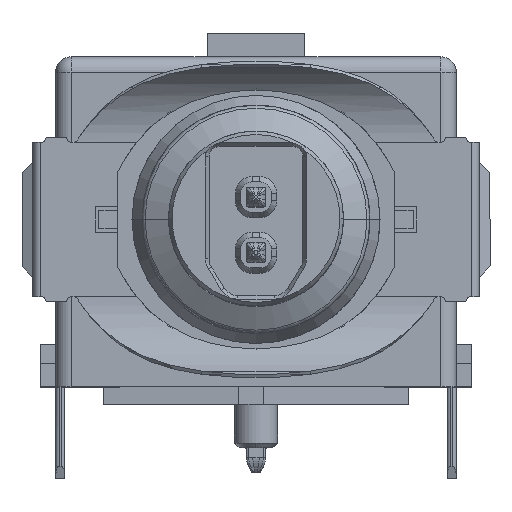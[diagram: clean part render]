
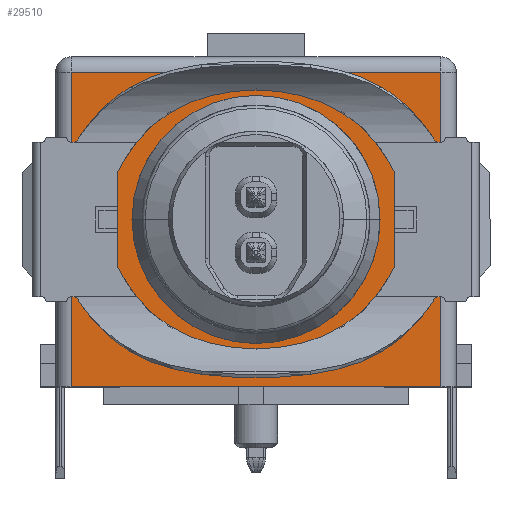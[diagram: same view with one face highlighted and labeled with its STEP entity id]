
A CAD part, top view. The second image highlights one B-rep face of the part: STEP entity #29510.
In plain terms, the highlighted planar face has unit normal (0, 0, 1) as drawn and (0, 0, -1) by its records, which use the part's own axes.
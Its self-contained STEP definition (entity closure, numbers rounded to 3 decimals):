
#1590=CARTESIAN_POINT('',(-5.675,-51.718,8.665));
#1600=VERTEX_POINT('',#1590);
#2110=CARTESIAN_POINT('',(0.325,-51.718,8.665));
#2120=DIRECTION('',(-1.,0.,0.));
#2130=VECTOR('',#2120,1.);
#2140=LINE('',#2110,#2130);
#2150=CARTESIAN_POINT('',(6.325,-51.718,8.665));
#2160=VERTEX_POINT('',#2150);
#2170=EDGE_CURVE('',#2160,#1600,#2140,.T.);
#25010=CARTESIAN_POINT('',(6.325,-61.928,8.665));
#25020=VERTEX_POINT('',#25010);
#25050=CARTESIAN_POINT('',(0.,-61.928,8.665));
#25060=DIRECTION('',(-1.,0.,0.));
#25070=VECTOR('',#25060,1.);
#25080=LINE('',#25050,#25070);
#25090=CARTESIAN_POINT('',(-5.675,-61.928,8.665));
#25100=VERTEX_POINT('',#25090);
#25110=EDGE_CURVE('',#25020,#25100,#25080,.T.);
#29070=CARTESIAN_POINT('',(17.698,-51.404,
8.665));
#29080=DIRECTION('',(0.,0.,-1.));
#29090=DIRECTION('',(0.,-1.,0.));
#29100=AXIS2_PLACEMENT_3D('',#29070,#29080,#29090);
#29110=PLANE('',#29100);
#29120=ORIENTED_EDGE('',*,*,#2170,.F.);
#29130=CARTESIAN_POINT('',(-5.675,-53.883,8.665));
#29140=DIRECTION('',(0.,1.,0.));
#29150=VECTOR('',#29140,1.);
#29160=LINE('',#29130,#29150);
#29170=EDGE_CURVE('',#25100,#1600,#29160,.T.);
#29180=ORIENTED_EDGE('',*,*,#29170,.T.);
#29190=ORIENTED_EDGE('',*,*,#25110,.T.);
#29200=CARTESIAN_POINT('',(6.325,-53.883,8.665));
#29210=DIRECTION('',(0.,1.,0.));
#29220=VECTOR('',#29210,1.);
#29230=LINE('',#29200,#29220);
#29240=EDGE_CURVE('',#25020,#2160,#29230,.T.);
#29250=ORIENTED_EDGE('',*,*,#29240,.F.);
#29260=EDGE_LOOP('',(#29250,#29190,#29180,#29120));
#29270=FACE_OUTER_BOUND('',#29260,.T.);
#29280=CARTESIAN_POINT('',(0.325,-56.498,8.665));
#29290=DIRECTION('',(0.,0.,1.));
#29300=DIRECTION('',(1.,0.,0.));
#29310=AXIS2_PLACEMENT_3D('',#29280,#29290,#29300);
#29320=CIRCLE('',#29310,4.025);
#29330=CARTESIAN_POINT('',(4.35,-56.498,8.665));
#29340=VERTEX_POINT('',#29330);
#29350=CARTESIAN_POINT('',(-2.211,-53.373,
8.665));
#29360=VERTEX_POINT('',#29350);
#29370=EDGE_CURVE('',#29340,#29360,#29320,.T.);
#29380=ORIENTED_EDGE('',*,*,#29370,.T.);
#29390=CARTESIAN_POINT('',(-2.211,-59.623,
8.665));
#29400=VERTEX_POINT('',#29390);
#29410=EDGE_CURVE('',#29400,#29340,#29320,.T.);
#29420=ORIENTED_EDGE('',*,*,#29410,.T.);
#29430=CARTESIAN_POINT('',(-2.211,-56.498,8.665));
#29440=DIRECTION('',(0.,1.,0.));
#29450=VECTOR('',#29440,1.);
#29460=LINE('',#29430,#29450);
#29470=EDGE_CURVE('',#29400,#29360,#29460,.T.);
#29480=ORIENTED_EDGE('',*,*,#29470,.F.);
#29490=EDGE_LOOP('',(#29480,#29420,#29380));
#29500=FACE_BOUND('',#29490,.T.);
#29510=ADVANCED_FACE('',(#29270,#29500),#29110,.T.);
